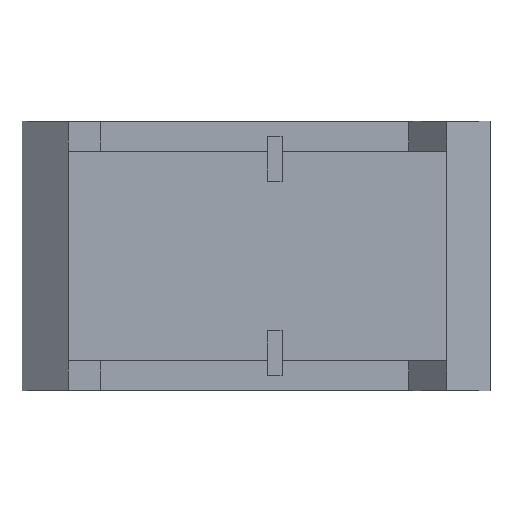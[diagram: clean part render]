
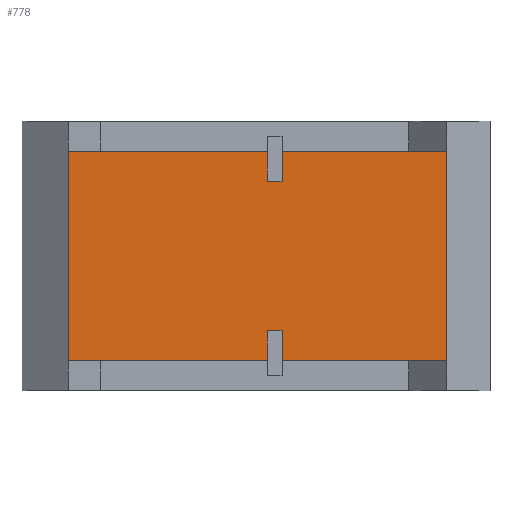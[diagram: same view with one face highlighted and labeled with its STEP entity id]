
A CAD part, front view. The second image highlights one B-rep face of the part: STEP entity #778.
In plain terms, the highlighted planar face has unit normal (0, -1, 0).
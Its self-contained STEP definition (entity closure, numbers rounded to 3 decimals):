
#34 = CARTESIAN_POINT ( 'NONE',  ( -14.869, -7.357, 16. ) ) ;
#42 = EDGE_CURVE ( 'NONE', #684, #928, #121, .T. ) ;
#50 = DIRECTION ( 'NONE',  ( -1., 0., 0. ) ) ;
#63 = DIRECTION ( 'NONE',  ( 0., 0., 1. ) ) ;
#86 = CARTESIAN_POINT ( 'NONE',  ( -1.572, -7.357, 4. ) ) ;
#106 = LINE ( 'NONE', #717, #497 ) ;
#119 = LINE ( 'NONE', #248, #349 ) ;
#121 = LINE ( 'NONE', #150, #307 ) ;
#123 = CARTESIAN_POINT ( 'NONE',  ( -0.572, -7.357, 4. ) ) ;
#129 = VECTOR ( 'NONE', #205, 1000. ) ;
#130 = LINE ( 'NONE', #34, #270 ) ;
#134 = CARTESIAN_POINT ( 'NONE',  ( 10.428, -7.357, 2. ) ) ;
#135 = ORIENTED_EDGE ( 'NONE', *, *, #650, .F. ) ;
#141 = VECTOR ( 'NONE', #458, 1000. ) ;
#146 = ORIENTED_EDGE ( 'NONE', *, *, #670, .T. ) ;
#150 = CARTESIAN_POINT ( 'NONE',  ( -14.869, -7.357, 16. ) ) ;
#152 = DIRECTION ( 'NONE',  ( -1., 0., 0. ) ) ;
#159 = DIRECTION ( 'NONE',  ( 0., 0., -1. ) ) ;
#171 = ORIENTED_EDGE ( 'NONE', *, *, #744, .T. ) ;
#172 = VERTEX_POINT ( 'NONE', #982 ) ;
#193 = ORIENTED_EDGE ( 'NONE', *, *, #896, .F. ) ;
#194 = CARTESIAN_POINT ( 'NONE',  ( -14.869, -7.357, 2. ) ) ;
#198 = ORIENTED_EDGE ( 'NONE', *, *, #309, .F. ) ;
#205 = DIRECTION ( 'NONE',  ( 0., 0., 1. ) ) ;
#209 = VERTEX_POINT ( 'NONE', #628 ) ;
#217 = FACE_OUTER_BOUND ( 'NONE', #602, .T. ) ;
#228 = LINE ( 'NONE', #194, #256 ) ;
#239 = CARTESIAN_POINT ( 'NONE',  ( -0.572, -7.357, 16. ) ) ;
#240 = VECTOR ( 'NONE', #903, 1000. ) ;
#248 = CARTESIAN_POINT ( 'NONE',  ( -0.572, -7.357, 14. ) ) ;
#256 = VECTOR ( 'NONE', #279, 1000. ) ;
#261 = ORIENTED_EDGE ( 'NONE', *, *, #42, .T. ) ;
#270 = VECTOR ( 'NONE', #152, 1000. ) ;
#277 = DIRECTION ( 'NONE',  ( 0., 0., -1. ) ) ;
#279 = DIRECTION ( 'NONE',  ( 0., 0., -1. ) ) ;
#284 = AXIS2_PLACEMENT_3D ( 'NONE', #904, #528, #63 ) ;
#292 = EDGE_CURVE ( 'NONE', #654, #411, #522, .T. ) ;
#305 = LINE ( 'NONE', #399, #907 ) ;
#307 = VECTOR ( 'NONE', #50, 1000. ) ;
#309 = EDGE_CURVE ( 'NONE', #315, #968, #106, .T. ) ;
#315 = VERTEX_POINT ( 'NONE', #86 ) ;
#325 = VERTEX_POINT ( 'NONE', #589 ) ;
#334 = EDGE_CURVE ( 'NONE', #325, #861, #130, .T. ) ;
#335 = CARTESIAN_POINT ( 'NONE',  ( -1.572, -7.357, 2. ) ) ;
#349 = VECTOR ( 'NONE', #651, 1000. ) ;
#364 = LINE ( 'NONE', #123, #129 ) ;
#376 = PLANE ( 'NONE',  #284 ) ;
#399 = CARTESIAN_POINT ( 'NONE',  ( -1.572, -7.357, 0. ) ) ;
#411 = VERTEX_POINT ( 'NONE', #533 ) ;
#449 = LINE ( 'NONE', #685, #823 ) ;
#452 = ORIENTED_EDGE ( 'NONE', *, *, #334, .T. ) ;
#458 = DIRECTION ( 'NONE',  ( -1., 0., 0. ) ) ;
#471 = LINE ( 'NONE', #819, #240 ) ;
#475 = ORIENTED_EDGE ( 'NONE', *, *, #491, .F. ) ;
#491 = EDGE_CURVE ( 'NONE', #411, #928, #119, .T. ) ;
#497 = VECTOR ( 'NONE', #277, 1000. ) ;
#514 = CARTESIAN_POINT ( 'NONE',  ( -0.572, -7.357, 2. ) ) ;
#516 = CARTESIAN_POINT ( 'NONE',  ( 10.428, -7.357, 16. ) ) ;
#520 = VECTOR ( 'NONE', #890, 1000. ) ;
#522 = LINE ( 'NONE', #802, #899 ) ;
#528 = DIRECTION ( 'NONE',  ( 0., 1., 0. ) ) ;
#533 = CARTESIAN_POINT ( 'NONE',  ( -0.572, -7.357, 14. ) ) ;
#550 = CARTESIAN_POINT ( 'NONE',  ( -14.869, -7.357, 16. ) ) ;
#559 = LINE ( 'NONE', #690, #141 ) ;
#578 = EDGE_CURVE ( 'NONE', #861, #209, #228, .T. ) ;
#589 = CARTESIAN_POINT ( 'NONE',  ( -1.572, -7.357, 16. ) ) ;
#602 = EDGE_LOOP ( 'NONE', ( #198, #788, #135, #146, #822, #261, #475, #784, #193, #452, #963, #171 ) ) ;
#628 = CARTESIAN_POINT ( 'NONE',  ( -14.869, -7.357, 2. ) ) ;
#650 = EDGE_CURVE ( 'NONE', #666, #172, #364, .T. ) ;
#651 = DIRECTION ( 'NONE',  ( 0., 0., 1. ) ) ;
#654 = VERTEX_POINT ( 'NONE', #671 ) ;
#666 = VERTEX_POINT ( 'NONE', #514 ) ;
#670 = EDGE_CURVE ( 'NONE', #666, #724, #730, .T. ) ;
#671 = CARTESIAN_POINT ( 'NONE',  ( -1.572, -7.357, 14. ) ) ;
#684 = VERTEX_POINT ( 'NONE', #516 ) ;
#685 = CARTESIAN_POINT ( 'NONE',  ( 10.428, -7.357, 2. ) ) ;
#690 = CARTESIAN_POINT ( 'NONE',  ( -1.572, -7.357, 4. ) ) ;
#717 = CARTESIAN_POINT ( 'NONE',  ( -1.572, -7.357, 4. ) ) ;
#724 = VERTEX_POINT ( 'NONE', #134 ) ;
#730 = LINE ( 'NONE', #750, #520 ) ;
#741 = DIRECTION ( 'NONE',  ( 1., 0., 0. ) ) ;
#744 = EDGE_CURVE ( 'NONE', #209, #968, #471, .T. ) ;
#750 = CARTESIAN_POINT ( 'NONE',  ( -14.869, -7.357, 2. ) ) ;
#757 = EDGE_CURVE ( 'NONE', #724, #684, #449, .T. ) ;
#762 = DIRECTION ( 'NONE',  ( 0., 0., 1. ) ) ;
#778 = ADVANCED_FACE ( 'NONE', ( #217 ), #376, .F. ) ;
#784 = ORIENTED_EDGE ( 'NONE', *, *, #292, .F. ) ;
#788 = ORIENTED_EDGE ( 'NONE', *, *, #832, .F. ) ;
#802 = CARTESIAN_POINT ( 'NONE',  ( -1.572, -7.357, 14. ) ) ;
#819 = CARTESIAN_POINT ( 'NONE',  ( -14.869, -7.357, 2. ) ) ;
#822 = ORIENTED_EDGE ( 'NONE', *, *, #757, .T. ) ;
#823 = VECTOR ( 'NONE', #762, 1000. ) ;
#832 = EDGE_CURVE ( 'NONE', #172, #315, #559, .T. ) ;
#861 = VERTEX_POINT ( 'NONE', #550 ) ;
#890 = DIRECTION ( 'NONE',  ( 1., 0., 0. ) ) ;
#896 = EDGE_CURVE ( 'NONE', #325, #654, #305, .T. ) ;
#899 = VECTOR ( 'NONE', #741, 1000. ) ;
#903 = DIRECTION ( 'NONE',  ( 1., 0., 0. ) ) ;
#904 = CARTESIAN_POINT ( 'NONE',  ( 0., -7.357, 0. ) ) ;
#907 = VECTOR ( 'NONE', #159, 1000. ) ;
#928 = VERTEX_POINT ( 'NONE', #239 ) ;
#963 = ORIENTED_EDGE ( 'NONE', *, *, #578, .T. ) ;
#968 = VERTEX_POINT ( 'NONE', #335 ) ;
#982 = CARTESIAN_POINT ( 'NONE',  ( -0.572, -7.357, 4. ) ) ;
